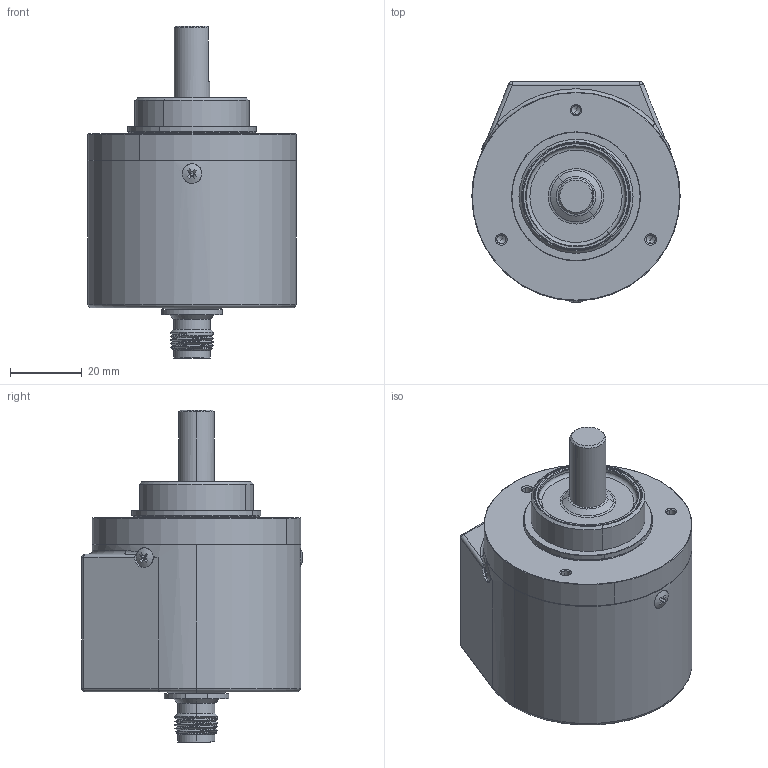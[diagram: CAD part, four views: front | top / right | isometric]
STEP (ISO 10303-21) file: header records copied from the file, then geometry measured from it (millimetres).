
FILE_DESCRIPTION (( 'STEP AP214' ), '1' );
FILE_NAME ('H11xJx.STEP', '2025-04-01T11:21:27', ( '' ), ( '' ), 'SwSTEP 2.0', 'SolidWorks 2019', '' );
FILE_SCHEMA (( 'AUTOMOTIVE_DESIGN' ));
Length unit declared in the file: millimetre
Products named in the file (1): H11xJx
Bounding box: 58 x 61.53 x 92.45 mm (x, y, z)
Volume: 71791.3 mm3; surface area: 34534.2 mm2
Topology: 1 solids, 5 shells, 625 faces, 1604 edges, 982 vertices
Faces by surface type: cylinder 187, plane 186, cone 162, bspline 56, torus 20, sphere 14
Entity records: 29689 total; most frequent: CARTESIAN_POINT 8410, ORIENTED_EDGE 3088, DIRECTION 2896, EDGE_CURVE 1544, AXIS2_PLACEMENT_3D 1160, VERTEX_POINT 972, EDGE_LOOP 676, UNCERTAINTY_MEASURE_WITH_UNIT 628
